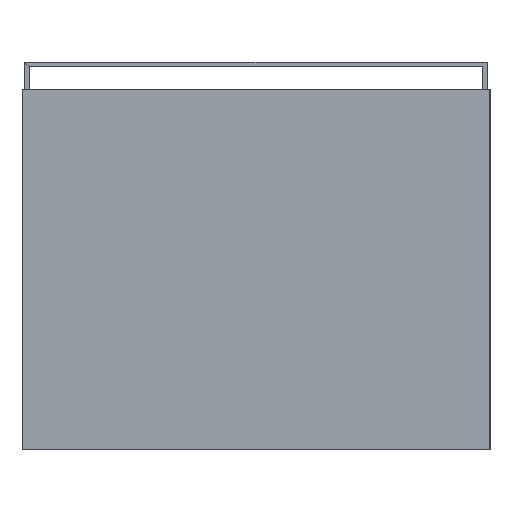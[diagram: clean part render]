
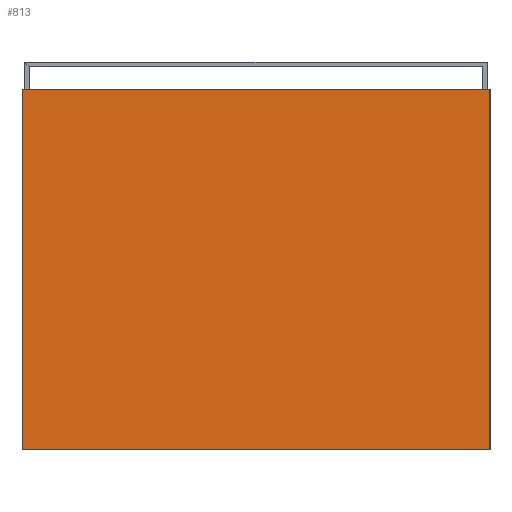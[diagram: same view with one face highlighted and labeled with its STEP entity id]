
A CAD part, left-side view. The second image highlights one B-rep face of the part: STEP entity #813.
In plain terms, the highlighted planar face has unit normal (-1, 0, 0).
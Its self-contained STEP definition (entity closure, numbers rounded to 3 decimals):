
#679=CARTESIAN_POINT('',(-0.318,-0.165,0.0));
#678=VERTEX_POINT('',#679);
#697=CARTESIAN_POINT('',(-0.318,-0.165,0.254));
#696=VERTEX_POINT('',#697);
#705=EDGE_CURVE('',#678,#696,#710,.T.);
#710=LINE('',#679,#712);
#712=VECTOR('',#713,0.254);
#713=DIRECTION('',(0.0,0.0,1.0));
#775=CARTESIAN_POINT('',(-0.318,0.165,0.0));
#774=VERTEX_POINT('',#775);
#785=CARTESIAN_POINT('',(-0.318,0.165,0.254));
#784=VERTEX_POINT('',#785);
#783=EDGE_CURVE('',#784,#774,#788,.T.);
#788=LINE('',#785,#790);
#790=VECTOR('',#791,0.254);
#791=DIRECTION('',(0.0,0.0,-1.0));
#813=ADVANCED_FACE('',(#819),#814,.T.);
#814=PLANE('',#815);
#815=AXIS2_PLACEMENT_3D('',#816,#817,#818);
#816=CARTESIAN_POINT('',(-0.318,0.165,0.0));
#817=DIRECTION('',(-1.0,0.0,0.0));
#818=DIRECTION('',(0.,0.,1.));
#819=FACE_OUTER_BOUND('',#820,.T.);
#820=EDGE_LOOP('',(#821,#831,#841,#851));
#822=EDGE_CURVE('',#678,#774,#827,.T.);
#827=LINE('',#679,#829);
#829=VECTOR('',#830,0.33);
#830=DIRECTION('',(0.0,1.0,0.0));
#821=ORIENTED_EDGE('',*,*,#822,.F.);
#831=ORIENTED_EDGE('',*,*,#705,.T.);
#842=EDGE_CURVE('',#784,#696,#847,.T.);
#847=LINE('',#785,#849);
#849=VECTOR('',#850,0.33);
#850=DIRECTION('',(0.0,-1.0,0.0));
#841=ORIENTED_EDGE('',*,*,#842,.F.);
#851=ORIENTED_EDGE('',*,*,#783,.T.);
